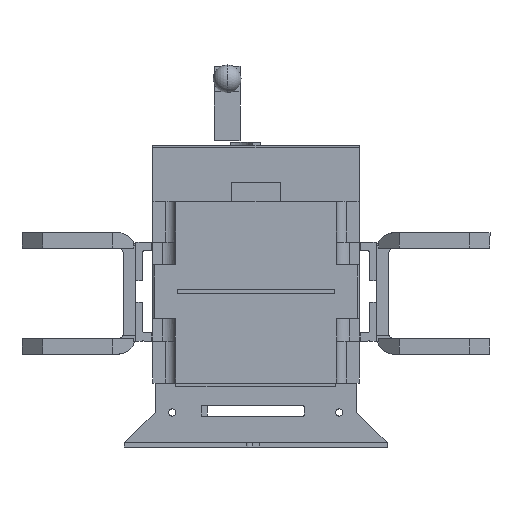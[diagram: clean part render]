
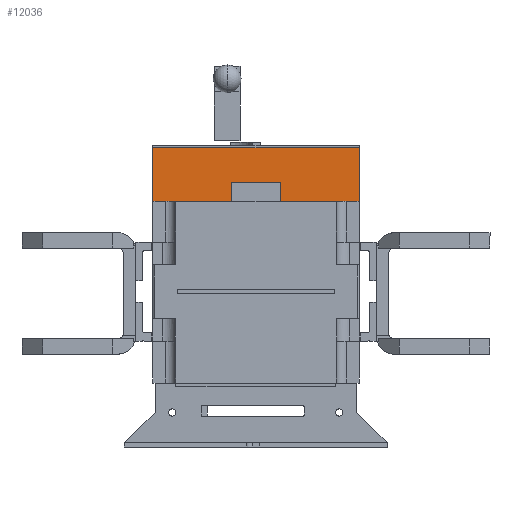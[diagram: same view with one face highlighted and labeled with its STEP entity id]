
A CAD part, left-side view. The second image highlights one B-rep face of the part: STEP entity #12036.
In plain terms, the highlighted planar face has unit normal (-1, 0.001, 0).
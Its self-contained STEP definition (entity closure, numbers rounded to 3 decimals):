
#673 = ORIENTED_EDGE ( 'NONE', *, *, #15376, .T. ) ;
#1185 = VECTOR ( 'NONE', #1220, 1000. ) ;
#1220 = DIRECTION ( 'NONE',  ( 0., 0., 1. ) ) ;
#1548 = AXIS2_PLACEMENT_3D ( 'NONE', #15045, #9792, #24465 ) ;
#1873 = EDGE_CURVE ( 'NONE', #14898, #8321, #24552, .T. ) ;
#3457 = ORIENTED_EDGE ( 'NONE', *, *, #23638, .F. ) ;
#4613 = VERTEX_POINT ( 'NONE', #11803 ) ;
#5178 = PLANE ( 'NONE',  #1548 ) ;
#5394 = CARTESIAN_POINT ( 'NONE',  ( -65., 85.5, -100. ) ) ;
#5889 = VECTOR ( 'NONE', #19514, 1000. ) ;
#6336 = CARTESIAN_POINT ( 'NONE',  ( -65.1, 137.5, 100. ) ) ;
#7669 = CARTESIAN_POINT ( 'NONE',  ( -65.1, 137.5, 100. ) ) ;
#8321 = VERTEX_POINT ( 'NONE', #6336 ) ;
#9034 = CARTESIAN_POINT ( 'NONE',  ( -65., 85.5, -100. ) ) ;
#9503 = DIRECTION ( 'NONE',  ( 0., 0., 1. ) ) ;
#9792 = DIRECTION ( 'NONE',  ( 1., 0., 0. ) ) ;
#10486 = DIRECTION ( 'NONE',  ( 0., 0., 1. ) ) ;
#10509 = ORIENTED_EDGE ( 'NONE', *, *, #1873, .F. ) ;
#10697 = ORIENTED_EDGE ( 'NONE', *, *, #12053, .F. ) ;
#10708 = CARTESIAN_POINT ( 'NONE',  ( -65.1, 85.5, 100. ) ) ;
#11155 = CARTESIAN_POINT ( 'NONE',  ( -65.038, 85.5, -24. ) ) ;
#11803 = CARTESIAN_POINT ( 'NONE',  ( -65.038, 104.2, -24. ) ) ;
#11999 = DIRECTION ( 'NONE',  ( 0., -1., 0. ) ) ;
#12036 = ADVANCED_FACE ( 'NONE', ( #21847 ), #5178, .F. ) ;
#12053 = EDGE_CURVE ( 'NONE', #4613, #27002, #28940, .T. ) ;
#12581 = VERTEX_POINT ( 'NONE', #18644 ) ;
#12782 = CARTESIAN_POINT ( 'NONE',  ( -65.038, 104.2, -24. ) ) ;
#12870 = LINE ( 'NONE', #20133, #5889 ) ;
#14106 = VECTOR ( 'NONE', #26244, 1000. ) ;
#14190 = VECTOR ( 'NONE', #11999, 1000. ) ;
#14217 = VERTEX_POINT ( 'NONE', #9034 ) ;
#14702 = VERTEX_POINT ( 'NONE', #10708 ) ;
#14898 = VERTEX_POINT ( 'NONE', #30436 ) ;
#14910 = CARTESIAN_POINT ( 'NONE',  ( -65.038, 104.2, -24. ) ) ;
#15045 = CARTESIAN_POINT ( 'NONE',  ( -65., 137.5, -100. ) ) ;
#15376 = EDGE_CURVE ( 'NONE', #14217, #27002, #26089, .T. ) ;
#15757 = CARTESIAN_POINT ( 'NONE',  ( -65.062, 85.5, 24. ) ) ;
#15803 = EDGE_CURVE ( 'NONE', #8321, #14702, #18945, .T. ) ;
#16223 = LINE ( 'NONE', #28094, #26621 ) ;
#16319 = VECTOR ( 'NONE', #17208, 1000. ) ;
#16617 = ORIENTED_EDGE ( 'NONE', *, *, #19698, .T. ) ;
#17208 = DIRECTION ( 'NONE',  ( 0., -1., 0. ) ) ;
#17518 = ORIENTED_EDGE ( 'NONE', *, *, #15803, .F. ) ;
#18644 = CARTESIAN_POINT ( 'NONE',  ( -65.062, 104.2, 24. ) ) ;
#18923 = ORIENTED_EDGE ( 'NONE', *, *, #26724, .T. ) ;
#18945 = LINE ( 'NONE', #7669, #14190 ) ;
#18981 = EDGE_LOOP ( 'NONE', ( #20644, #17518, #10509, #16617, #673, #10697, #18923, #3457 ) ) ;
#19514 = DIRECTION ( 'NONE',  ( 0., 1., 0. ) ) ;
#19544 = CARTESIAN_POINT ( 'NONE',  ( -65.062, 85.5, 24. ) ) ;
#19698 = EDGE_CURVE ( 'NONE', #14898, #14217, #16223, .T. ) ;
#19727 = VECTOR ( 'NONE', #10486, 1000. ) ;
#20133 = CARTESIAN_POINT ( 'NONE',  ( -65.062, 85.5, 24. ) ) ;
#20644 = ORIENTED_EDGE ( 'NONE', *, *, #21495, .T. ) ;
#20650 = VERTEX_POINT ( 'NONE', #19544 ) ;
#20694 = DIRECTION ( 'NONE',  ( 0., -1., 0. ) ) ;
#21495 = EDGE_CURVE ( 'NONE', #20650, #14702, #25024, .T. ) ;
#21847 = FACE_OUTER_BOUND ( 'NONE', #18981, .T. ) ;
#22361 = LINE ( 'NONE', #12782, #1185 ) ;
#23638 = EDGE_CURVE ( 'NONE', #20650, #12581, #12870, .T. ) ;
#24465 = DIRECTION ( 'NONE',  ( 0., -1., 0. ) ) ;
#24552 = LINE ( 'NONE', #27163, #19727 ) ;
#25024 = LINE ( 'NONE', #15757, #27460 ) ;
#26089 = LINE ( 'NONE', #5394, #14106 ) ;
#26244 = DIRECTION ( 'NONE',  ( 0., 0., 1. ) ) ;
#26621 = VECTOR ( 'NONE', #20694, 1000. ) ;
#26724 = EDGE_CURVE ( 'NONE', #4613, #12581, #22361, .T. ) ;
#27002 = VERTEX_POINT ( 'NONE', #11155 ) ;
#27163 = CARTESIAN_POINT ( 'NONE',  ( -65., 137.5, -100. ) ) ;
#27460 = VECTOR ( 'NONE', #9503, 1000. ) ;
#28094 = CARTESIAN_POINT ( 'NONE',  ( -65., 137.5, -100. ) ) ;
#28940 = LINE ( 'NONE', #14910, #16319 ) ;
#30436 = CARTESIAN_POINT ( 'NONE',  ( -65., 137.5, -100. ) ) ;
